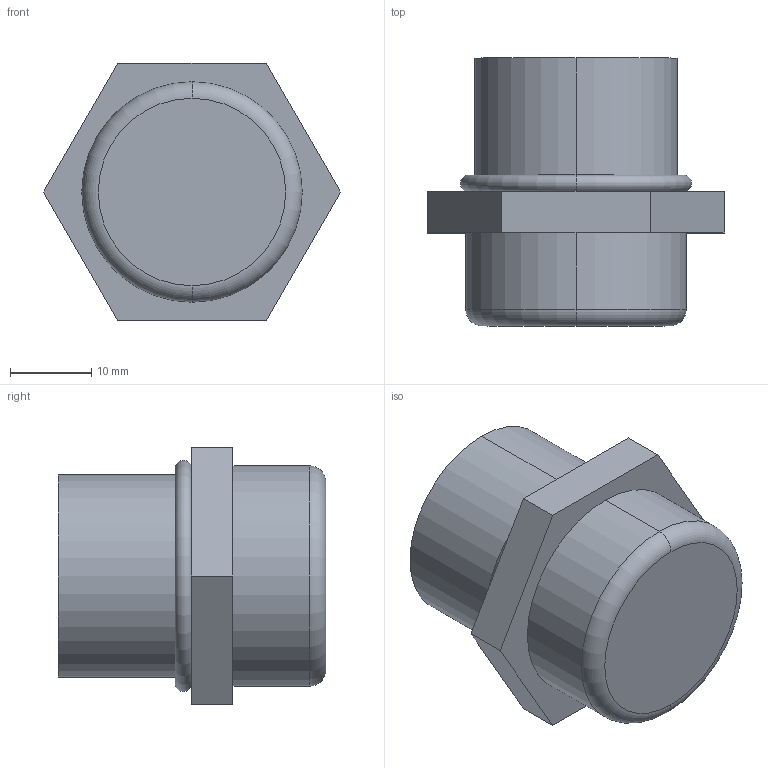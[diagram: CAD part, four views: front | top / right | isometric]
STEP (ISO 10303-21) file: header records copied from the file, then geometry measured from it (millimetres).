
FILE_DESCRIPTION (( 'STEP AP203' ), '1' );
FILE_NAME ('exdbdm25ss6.STEP', '2013-11-26T14:35:36', ( 'User' ), ( 'Pentair Inc' ), 'SwSTEP 2.0', 'SolidWorks 2010', '' );
FILE_SCHEMA (( 'CONFIG_CONTROL_DESIGN' ));
Length unit declared in the file: inch
Products named in the file (1): exdbdm25ss6
Bounding box: 36.53 x 32.94 x 31.64 mm (x, y, z)
Volume: 17621.3 mm3; surface area: 5072.1 mm2
Topology: 1 solids, 1 shells, 21 faces, 44 edges, 28 vertices
Faces by surface type: plane 11, cylinder 6, torus 4
Entity records: 645 total; most frequent: DIRECTION 108, CARTESIAN_POINT 94, ORIENTED_EDGE 88, EDGE_CURVE 44, AXIS2_PLACEMENT_3D 42, VERTEX_POINT 28, VECTOR 24, LINE 24
